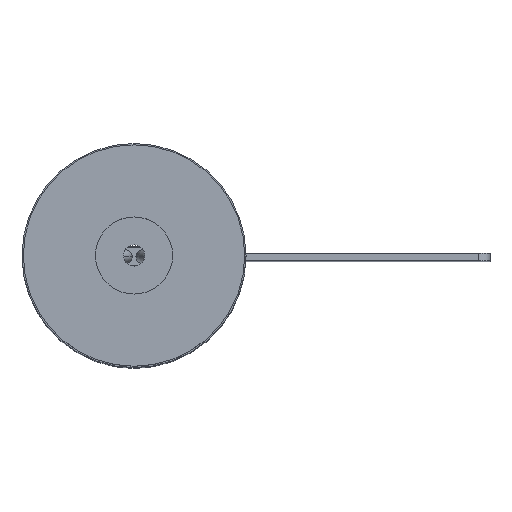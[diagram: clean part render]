
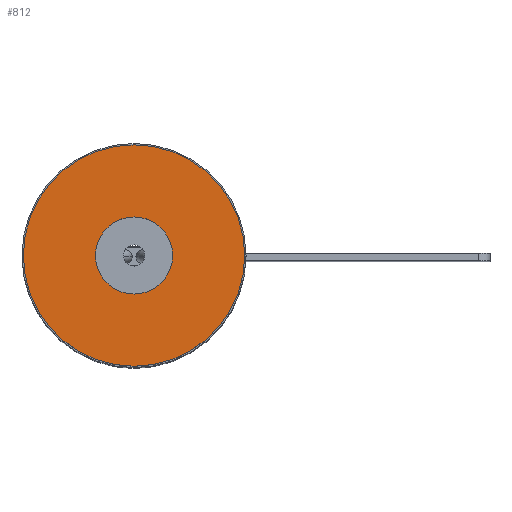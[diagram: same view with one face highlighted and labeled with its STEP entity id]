
A CAD part, top view. The second image highlights one B-rep face of the part: STEP entity #812.
In plain terms, the highlighted planar face has unit normal (0, 0, 1).
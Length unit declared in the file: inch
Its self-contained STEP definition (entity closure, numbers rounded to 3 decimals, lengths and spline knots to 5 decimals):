
#127 = CARTESIAN_POINT ( 'NONE',  ( 0., 0., 0.24 ) ) ;
#680 = CARTESIAN_POINT ( 'NONE',  ( -0.287, 0., 0.24 ) ) ;
#812 = ADVANCED_FACE ( 'NONE', ( #5224, #8528 ), #6635, .T. ) ;
#1258 = VERTEX_POINT ( 'NONE', #7567 ) ;
#1463 = CIRCLE ( 'NONE', #6704, 0.287 ) ;
#1652 = CIRCLE ( 'NONE', #8283, 0.1 ) ;
#1857 = CARTESIAN_POINT ( 'NONE',  ( 0., 0., 0.24 ) ) ;
#2678 = DIRECTION ( 'NONE',  ( 0., 0., 1. ) ) ;
#2721 = DIRECTION ( 'NONE',  ( 0., 0., 1. ) ) ;
#2871 = VERTEX_POINT ( 'NONE', #680 ) ;
#3017 = CARTESIAN_POINT ( 'NONE',  ( 0.1, 0., 0.24 ) ) ;
#3335 = CARTESIAN_POINT ( 'NONE',  ( 0., 0., 0.24 ) ) ;
#3380 = DIRECTION ( 'NONE',  ( 1., 0., 0. ) ) ;
#3384 = DIRECTION ( 'NONE',  ( 1., 0., 0. ) ) ;
#3668 = DIRECTION ( 'NONE',  ( 1., 0., 0. ) ) ;
#3835 = CIRCLE ( 'NONE', #5304, 0.287 ) ;
#3897 = EDGE_CURVE ( 'NONE', #2871, #4653, #1463, .T. ) ;
#4546 = DIRECTION ( 'NONE',  ( 0., 0., 1. ) ) ;
#4653 = VERTEX_POINT ( 'NONE', #5345 ) ;
#4730 = CARTESIAN_POINT ( 'NONE',  ( 0., 0., 0.24 ) ) ;
#4834 = AXIS2_PLACEMENT_3D ( 'NONE', #7339, #5012, #5840 ) ;
#4894 = DIRECTION ( 'NONE',  ( 1., 0., 0. ) ) ;
#4927 = EDGE_LOOP ( 'NONE', ( #6624, #8000 ) ) ;
#5012 = DIRECTION ( 'NONE',  ( 0., 0., 1. ) ) ;
#5224 = FACE_BOUND ( 'NONE', #4927, .T. ) ;
#5304 = AXIS2_PLACEMENT_3D ( 'NONE', #4730, #2721, #4894 ) ;
#5345 = CARTESIAN_POINT ( 'NONE',  ( 0.287, 0., 0.24 ) ) ;
#5555 = AXIS2_PLACEMENT_3D ( 'NONE', #3335, #4546, #3380 ) ;
#5568 = ORIENTED_EDGE ( 'NONE', *, *, #8383, .T. ) ;
#5621 = VERTEX_POINT ( 'NONE', #3017 ) ;
#5700 = DIRECTION ( 'NONE',  ( 0., 0., 1. ) ) ;
#5827 = EDGE_LOOP ( 'NONE', ( #5568, #6512 ) ) ;
#5840 = DIRECTION ( 'NONE',  ( 1., 0., 0. ) ) ;
#6419 = CIRCLE ( 'NONE', #5555, 0.1 ) ;
#6512 = ORIENTED_EDGE ( 'NONE', *, *, #3897, .T. ) ;
#6624 = ORIENTED_EDGE ( 'NONE', *, *, #7654, .F. ) ;
#6635 = PLANE ( 'NONE',  #4834 ) ;
#6704 = AXIS2_PLACEMENT_3D ( 'NONE', #1857, #2678, #3384 ) ;
#7339 = CARTESIAN_POINT ( 'NONE',  ( 0., 0., 0.24 ) ) ;
#7567 = CARTESIAN_POINT ( 'NONE',  ( -0.1, 0., 0.24 ) ) ;
#7654 = EDGE_CURVE ( 'NONE', #5621, #1258, #6419, .T. ) ;
#8000 = ORIENTED_EDGE ( 'NONE', *, *, #8142, .F. ) ;
#8142 = EDGE_CURVE ( 'NONE', #1258, #5621, #1652, .T. ) ;
#8283 = AXIS2_PLACEMENT_3D ( 'NONE', #127, #5700, #3668 ) ;
#8383 = EDGE_CURVE ( 'NONE', #4653, #2871, #3835, .T. ) ;
#8528 = FACE_OUTER_BOUND ( 'NONE', #5827, .T. ) ;
